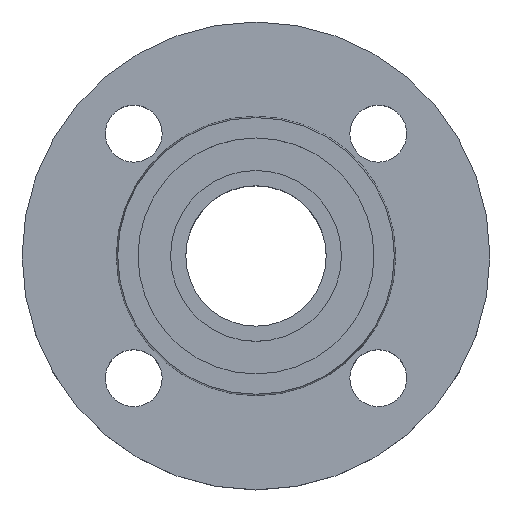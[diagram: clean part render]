
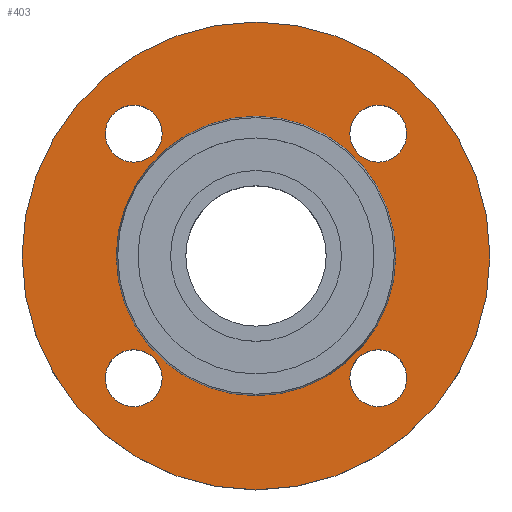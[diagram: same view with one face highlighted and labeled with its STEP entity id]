
A CAD part, top view. The second image highlights one B-rep face of the part: STEP entity #403.
In plain terms, the highlighted planar face has unit normal (0, 0, 1).
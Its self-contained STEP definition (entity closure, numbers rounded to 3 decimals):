
#7 = DIRECTION ( 'NONE',  ( 1., 0., 0. ) ) ;
#12 = CARTESIAN_POINT ( 'NONE',  ( 34.353, 0., -2. ) ) ;
#13 = EDGE_CURVE ( 'NONE', #578, #794, #373, .T. ) ;
#16 = CIRCLE ( 'NONE', #22, 34.353 ) ;
#17 = DIRECTION ( 'NONE',  ( 0., 0., -1. ) ) ;
#20 = CARTESIAN_POINT ( 'NONE',  ( -30.052, -30.052, -2. ) ) ;
#22 = AXIS2_PLACEMENT_3D ( 'NONE', #158, #157, #155 ) ;
#25 = EDGE_CURVE ( 'NONE', #755, #628, #360, .T. ) ;
#28 = EDGE_CURVE ( 'NONE', #628, #755, #328, .T. ) ;
#32 = CARTESIAN_POINT ( 'NONE',  ( -37.052, -30.052, -2. ) ) ;
#47 = CARTESIAN_POINT ( 'NONE',  ( -34.353, 0., -2. ) ) ;
#52 = CARTESIAN_POINT ( 'NONE',  ( 37.052, -30.052, -2. ) ) ;
#65 = CARTESIAN_POINT ( 'NONE',  ( 37.052, 30.052, -2. ) ) ;
#73 = CARTESIAN_POINT ( 'NONE',  ( -23.052, 30.052, -2. ) ) ;
#90 = CARTESIAN_POINT ( 'NONE',  ( 23.052, 30.052, -2. ) ) ;
#102 = DIRECTION ( 'NONE',  ( 1., 0., 0. ) ) ;
#105 = DIRECTION ( 'NONE',  ( 0., 0., -1. ) ) ;
#114 = CARTESIAN_POINT ( 'NONE',  ( -30.052, 30.052, -2. ) ) ;
#122 = CIRCLE ( 'NONE', #127, 7. ) ;
#127 = AXIS2_PLACEMENT_3D ( 'NONE', #20, #17, #7 ) ;
#128 = EDGE_CURVE ( 'NONE', #634, #758, #400, .T. ) ;
#131 = EDGE_CURVE ( 'NONE', #558, #589, #397, .T. ) ;
#135 = CARTESIAN_POINT ( 'NONE',  ( 0., 0., -2. ) ) ;
#155 = DIRECTION ( 'NONE',  ( -1., 0., 0. ) ) ;
#157 = DIRECTION ( 'NONE',  ( 0., 0., -1. ) ) ;
#158 = CARTESIAN_POINT ( 'NONE',  ( 0., 0., -2. ) ) ;
#180 = EDGE_CURVE ( 'NONE', #783, #740, #313, .T. ) ;
#195 = CIRCLE ( 'NONE', #208, 7. ) ;
#205 = EDGE_CURVE ( 'NONE', #776, #784, #284, .T. ) ;
#208 = AXIS2_PLACEMENT_3D ( 'NONE', #448, #449, #451 ) ;
#215 = AXIS2_PLACEMENT_3D ( 'NONE', #135, #264, #789 ) ;
#229 = AXIS2_PLACEMENT_3D ( 'NONE', #114, #105, #102 ) ;
#252 = AXIS2_PLACEMENT_3D ( 'NONE', #396, #410, #405 ) ;
#254 = EDGE_CURVE ( 'NONE', #784, #776, #347, .T. ) ;
#258 = CARTESIAN_POINT ( 'NONE',  ( 23.052, -30.052, -2. ) ) ;
#259 = AXIS2_PLACEMENT_3D ( 'NONE', #801, #802, #803 ) ;
#263 = CIRCLE ( 'NONE', #229, 7. ) ;
#264 = DIRECTION ( 'NONE',  ( 0., 0., -1. ) ) ;
#267 = CARTESIAN_POINT ( 'NONE',  ( -23.052, -30.052, -2. ) ) ;
#284 = CIRCLE ( 'NONE', #359, 57.5 ) ;
#298 = EDGE_CURVE ( 'NONE', #589, #558, #195, .T. ) ;
#306 = AXIS2_PLACEMENT_3D ( 'NONE', #857, #858, #859 ) ;
#313 = CIRCLE ( 'NONE', #306, 7. ) ;
#328 = CIRCLE ( 'NONE', #259, 7. ) ;
#330 = AXIS2_PLACEMENT_3D ( 'NONE', #798, #799, #800 ) ;
#336 = CARTESIAN_POINT ( 'NONE',  ( -57.5, 0., -2. ) ) ;
#347 = CIRCLE ( 'NONE', #215, 57.5 ) ;
#359 = AXIS2_PLACEMENT_3D ( 'NONE', #869, #870, #871 ) ;
#360 = CIRCLE ( 'NONE', #330, 7. ) ;
#370 = AXIS2_PLACEMENT_3D ( 'NONE', #795, #796, #797 ) ;
#373 = CIRCLE ( 'NONE', #370, 7. ) ;
#386 = CARTESIAN_POINT ( 'NONE',  ( -37.052, 30.052, -2. ) ) ;
#389 = AXIS2_PLACEMENT_3D ( 'NONE', #834, #835, #836 ) ;
#394 = FACE_OUTER_BOUND ( 'NONE', #786, .T. ) ;
#396 = CARTESIAN_POINT ( 'NONE',  ( 34.353, 0., -2. ) ) ;
#397 = CIRCLE ( 'NONE', #389, 7. ) ;
#400 = CIRCLE ( 'NONE', #421, 34.353 ) ;
#403 = ADVANCED_FACE ( 'NONE', ( #419, #461, #418, #454, #415, #394 ), #413, .T. ) ;
#405 = DIRECTION ( 'NONE',  ( 1., 0., 0. ) ) ;
#410 = DIRECTION ( 'NONE',  ( 0., 0., 1. ) ) ;
#413 = PLANE ( 'NONE',  #252 ) ;
#415 = FACE_BOUND ( 'NONE', #774, .T. ) ;
#418 = FACE_BOUND ( 'NONE', #601, .T. ) ;
#419 = FACE_BOUND ( 'NONE', #754, .T. ) ;
#421 = AXIS2_PLACEMENT_3D ( 'NONE', #827, #829, #830 ) ;
#448 = CARTESIAN_POINT ( 'NONE',  ( 30.052, 30.052, -2. ) ) ;
#449 = DIRECTION ( 'NONE',  ( 0., 0., -1. ) ) ;
#451 = DIRECTION ( 'NONE',  ( 1., 0., 0. ) ) ;
#454 = FACE_BOUND ( 'NONE', #743, .T. ) ;
#461 = FACE_BOUND ( 'NONE', #654, .T. ) ;
#504 = EDGE_CURVE ( 'NONE', #758, #634, #16, .T. ) ;
#551 = EDGE_CURVE ( 'NONE', #794, #578, #263, .T. ) ;
#558 = VERTEX_POINT ( 'NONE', #90 ) ;
#575 = EDGE_CURVE ( 'NONE', #740, #783, #122, .T. ) ;
#578 = VERTEX_POINT ( 'NONE', #73 ) ;
#589 = VERTEX_POINT ( 'NONE', #65 ) ;
#601 = EDGE_LOOP ( 'NONE', ( #658, #660 ) ) ;
#628 = VERTEX_POINT ( 'NONE', #52 ) ;
#634 = VERTEX_POINT ( 'NONE', #47 ) ;
#653 = ORIENTED_EDGE ( 'NONE', *, *, #28, .T. ) ;
#654 = EDGE_LOOP ( 'NONE', ( #656, #657 ) ) ;
#655 = ORIENTED_EDGE ( 'NONE', *, *, #25, .T. ) ;
#656 = ORIENTED_EDGE ( 'NONE', *, *, #180, .T. ) ;
#657 = ORIENTED_EDGE ( 'NONE', *, *, #575, .T. ) ;
#658 = ORIENTED_EDGE ( 'NONE', *, *, #13, .T. ) ;
#660 = ORIENTED_EDGE ( 'NONE', *, *, #551, .T. ) ;
#661 = ORIENTED_EDGE ( 'NONE', *, *, #298, .T. ) ;
#664 = ORIENTED_EDGE ( 'NONE', *, *, #131, .T. ) ;
#665 = ORIENTED_EDGE ( 'NONE', *, *, #128, .T. ) ;
#666 = ORIENTED_EDGE ( 'NONE', *, *, #504, .T. ) ;
#667 = ORIENTED_EDGE ( 'NONE', *, *, #254, .F. ) ;
#668 = ORIENTED_EDGE ( 'NONE', *, *, #205, .F. ) ;
#740 = VERTEX_POINT ( 'NONE', #32 ) ;
#743 = EDGE_LOOP ( 'NONE', ( #661, #664 ) ) ;
#754 = EDGE_LOOP ( 'NONE', ( #653, #655 ) ) ;
#755 = VERTEX_POINT ( 'NONE', #258 ) ;
#758 = VERTEX_POINT ( 'NONE', #12 ) ;
#774 = EDGE_LOOP ( 'NONE', ( #665, #666 ) ) ;
#776 = VERTEX_POINT ( 'NONE', #336 ) ;
#783 = VERTEX_POINT ( 'NONE', #267 ) ;
#784 = VERTEX_POINT ( 'NONE', #828 ) ;
#786 = EDGE_LOOP ( 'NONE', ( #667, #668 ) ) ;
#789 = DIRECTION ( 'NONE',  ( -1., 0., 0. ) ) ;
#794 = VERTEX_POINT ( 'NONE', #386 ) ;
#795 = CARTESIAN_POINT ( 'NONE',  ( -30.052, 30.052, -2. ) ) ;
#796 = DIRECTION ( 'NONE',  ( 0., 0., -1. ) ) ;
#797 = DIRECTION ( 'NONE',  ( 1., 0., 0. ) ) ;
#798 = CARTESIAN_POINT ( 'NONE',  ( 30.052, -30.052, -2. ) ) ;
#799 = DIRECTION ( 'NONE',  ( 0., 0., -1. ) ) ;
#800 = DIRECTION ( 'NONE',  ( 1., 0., 0. ) ) ;
#801 = CARTESIAN_POINT ( 'NONE',  ( 30.052, -30.052, -2. ) ) ;
#802 = DIRECTION ( 'NONE',  ( 0., 0., -1. ) ) ;
#803 = DIRECTION ( 'NONE',  ( 1., 0., 0. ) ) ;
#827 = CARTESIAN_POINT ( 'NONE',  ( 0., 0., -2. ) ) ;
#828 = CARTESIAN_POINT ( 'NONE',  ( 57.5, 0., -2. ) ) ;
#829 = DIRECTION ( 'NONE',  ( 0., 0., -1. ) ) ;
#830 = DIRECTION ( 'NONE',  ( -1., 0., 0. ) ) ;
#834 = CARTESIAN_POINT ( 'NONE',  ( 30.052, 30.052, -2. ) ) ;
#835 = DIRECTION ( 'NONE',  ( 0., 0., -1. ) ) ;
#836 = DIRECTION ( 'NONE',  ( 1., 0., 0. ) ) ;
#857 = CARTESIAN_POINT ( 'NONE',  ( -30.052, -30.052, -2. ) ) ;
#858 = DIRECTION ( 'NONE',  ( 0., 0., -1. ) ) ;
#859 = DIRECTION ( 'NONE',  ( 1., 0., 0. ) ) ;
#869 = CARTESIAN_POINT ( 'NONE',  ( 0., 0., -2. ) ) ;
#870 = DIRECTION ( 'NONE',  ( 0., 0., -1. ) ) ;
#871 = DIRECTION ( 'NONE',  ( -1., 0., 0. ) ) ;
